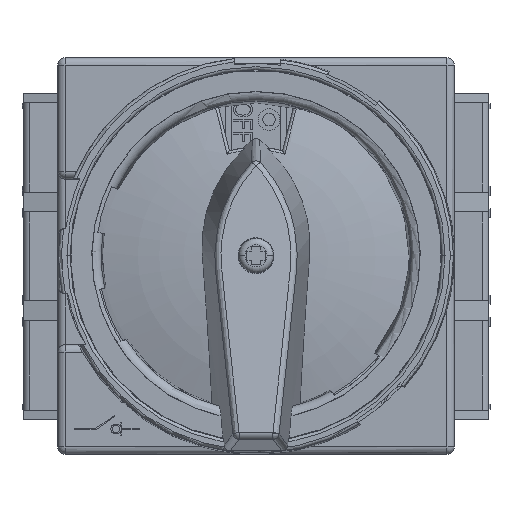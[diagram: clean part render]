
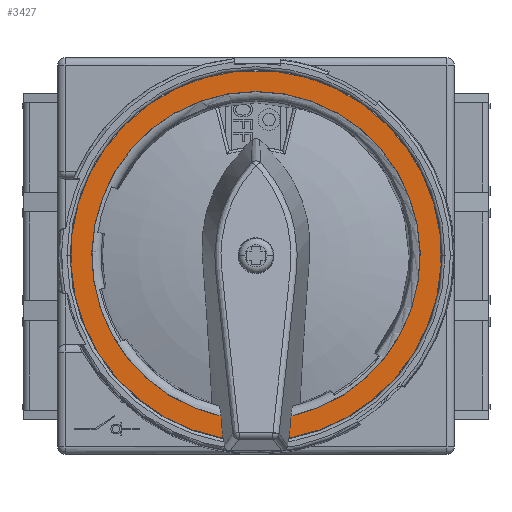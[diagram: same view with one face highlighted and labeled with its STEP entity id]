
A CAD part, top view. The second image highlights one B-rep face of the part: STEP entity #3427.
In plain terms, the highlighted planar face has unit normal (0, 0, 1).
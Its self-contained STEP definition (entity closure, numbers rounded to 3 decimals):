
#2417 = CARTESIAN_POINT ( 'NONE',  ( 207.554, -59.219, 92.2 ) ) ;
#3427 = ADVANCED_FACE ( 'NONE', ( #113253 ), #59290, .T. ) ;
#6066 = DIRECTION ( 'NONE',  ( 0., 0., 1. ) ) ;
#12673 = VERTEX_POINT ( 'NONE', #43703 ) ;
#13101 = CARTESIAN_POINT ( 'NONE',  ( 213., -30.975, 92.2 ) ) ;
#13797 = DIRECTION ( 'NONE',  ( 0., 0., -1. ) ) ;
#17559 = AXIS2_PLACEMENT_3D ( 'NONE', #55883, #64985, #97930 ) ;
#18154 = EDGE_CURVE ( 'NONE', #12673, #60552, #90382, .T. ) ;
#18386 = ORIENTED_EDGE ( 'NONE', *, *, #57251, .F. ) ;
#20692 = CARTESIAN_POINT ( 'NONE',  ( 207.458, -58.044, 92.2 ) ) ;
#22091 = CARTESIAN_POINT ( 'NONE',  ( 207.362, -56.868, 92.2 ) ) ;
#22209 = EDGE_CURVE ( 'NONE', #52718, #60552, #60233, .T. ) ;
#23440 = CARTESIAN_POINT ( 'NONE',  ( 216.453, -1.275, 92.2 ) ) ;
#25050 = AXIS2_PLACEMENT_3D ( 'NONE', #13101, #13797, #77501 ) ;
#27439 = AXIS2_PLACEMENT_3D ( 'NONE', #119790, #96704, #44170 ) ;
#29381 = CARTESIAN_POINT ( 'NONE',  ( 207.362, -56.868, 92.2 ) ) ;
#30726 = B_SPLINE_CURVE_WITH_KNOTS ( 'NONE', 3,
 ( #96340, #2417, #20692, #22091 ),
 .UNSPECIFIED., .F., .F.,
 ( 4, 4 ),
 ( 0., 0.004 ),
 .UNSPECIFIED. ) ;
#38474 = CARTESIAN_POINT ( 'NONE',  ( 183.1, -1.275, 92.2 ) ) ;
#43703 = CARTESIAN_POINT ( 'NONE',  ( 218.638, -56.868, 92.2 ) ) ;
#44170 = DIRECTION ( 'NONE',  ( 0., -1., 0. ) ) ;
#47429 = VERTEX_POINT ( 'NONE', #29381 ) ;
#48341 = ORIENTED_EDGE ( 'NONE', *, *, #18154, .T. ) ;
#52718 = VERTEX_POINT ( 'NONE', #23440 ) ;
#54642 = ORIENTED_EDGE ( 'NONE', *, *, #22209, .F. ) ;
#55883 = CARTESIAN_POINT ( 'NONE',  ( 213., -30.975, 92.2 ) ) ;
#55986 = VERTEX_POINT ( 'NONE', #63269 ) ;
#57251 = EDGE_CURVE ( 'NONE', #55986, #52718, #102195, .T. ) ;
#59290 = PLANE ( 'NONE',  #92705 ) ;
#59966 = CARTESIAN_POINT ( 'NONE',  ( 183.1, -30.975, 92.2 ) ) ;
#60233 = CIRCLE ( 'NONE', #17559, 29.9 ) ;
#60552 = VERTEX_POINT ( 'NONE', #71716 ) ;
#63269 = CARTESIAN_POINT ( 'NONE',  ( 209.547, -1.275, 92.2 ) ) ;
#64985 = DIRECTION ( 'NONE',  ( 0., 0., -1. ) ) ;
#67030 = CARTESIAN_POINT ( 'NONE',  ( 218.446, -59.219, 92.2 ) ) ;
#67716 = CARTESIAN_POINT ( 'NONE',  ( 218.35, -60.392, 92.2 ) ) ;
#71716 = CARTESIAN_POINT ( 'NONE',  ( 218.35, -60.392, 92.2 ) ) ;
#72172 = CIRCLE ( 'NONE', #27439, 26.5 ) ;
#73774 = ORIENTED_EDGE ( 'NONE', *, *, #126322, .T. ) ;
#77501 = DIRECTION ( 'NONE',  ( 0., 1., 0. ) ) ;
#77830 = ORIENTED_EDGE ( 'NONE', *, *, #120316, .T. ) ;
#79330 = CARTESIAN_POINT ( 'NONE',  ( 207.65, -60.392, 92.2 ) ) ;
#81111 = DIRECTION ( 'NONE',  ( 1., 0., 0. ) ) ;
#81686 = ORIENTED_EDGE ( 'NONE', *, *, #119613, .F. ) ;
#90382 = B_SPLINE_CURVE_WITH_KNOTS ( 'NONE', 3,
 ( #99289, #120298, #67030, #67716 ),
 .UNSPECIFIED., .F., .F.,
 ( 4, 4 ),
 ( 0., 0.003 ),
 .UNSPECIFIED. ) ;
#90800 = DIRECTION ( 'NONE',  ( 1., 0., 0. ) ) ;
#92705 = AXIS2_PLACEMENT_3D ( 'NONE', #59966, #6066, #90800 ) ;
#96340 = CARTESIAN_POINT ( 'NONE',  ( 207.65, -60.392, 92.2 ) ) ;
#96652 = CIRCLE ( 'NONE', #25050, 29.9 ) ;
#96704 = DIRECTION ( 'NONE',  ( 0., 0., -1. ) ) ;
#97930 = DIRECTION ( 'NONE',  ( 0., 1., 0. ) ) ;
#99289 = CARTESIAN_POINT ( 'NONE',  ( 218.638, -56.868, 92.2 ) ) ;
#102195 = LINE ( 'NONE', #38474, #125551 ) ;
#113253 = FACE_OUTER_BOUND ( 'NONE', #133314, .T. ) ;
#119613 = EDGE_CURVE ( 'NONE', #134025, #55986, #96652, .T. ) ;
#119790 = CARTESIAN_POINT ( 'NONE',  ( 213., -30.975, 92.2 ) ) ;
#120298 = CARTESIAN_POINT ( 'NONE',  ( 218.542, -58.044, 92.2 ) ) ;
#120316 = EDGE_CURVE ( 'NONE', #47429, #12673, #72172, .T. ) ;
#125551 = VECTOR ( 'NONE', #81111, 1000. ) ;
#126322 = EDGE_CURVE ( 'NONE', #134025, #47429, #30726, .T. ) ;
#133314 = EDGE_LOOP ( 'NONE', ( #77830, #48341, #54642, #18386, #81686, #73774 ) ) ;
#134025 = VERTEX_POINT ( 'NONE', #79330 ) ;
